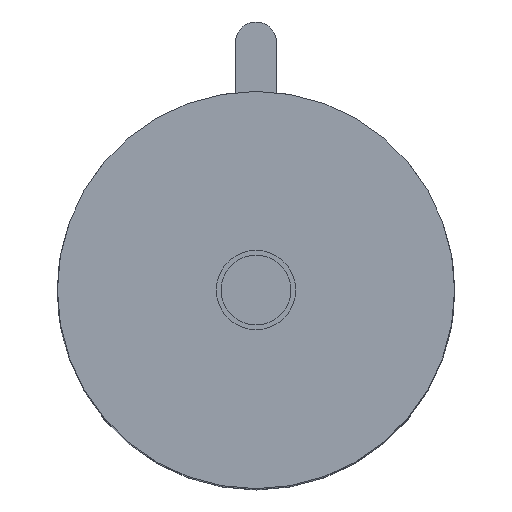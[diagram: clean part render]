
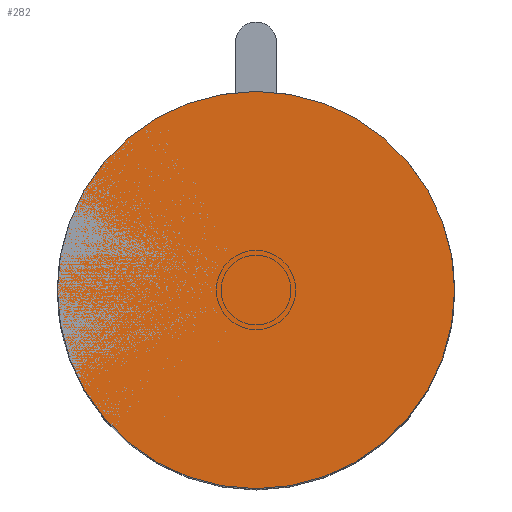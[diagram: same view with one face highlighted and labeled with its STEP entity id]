
A CAD part, top view. The second image highlights one B-rep face of the part: STEP entity #282.
In plain terms, the highlighted planar face has unit normal (0, 0, 1).
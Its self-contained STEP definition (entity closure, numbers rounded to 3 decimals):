
#35 = PLANE ( 'NONE',  #3122 ) ;
#246 = DIRECTION ( 'NONE',  ( 1., 0., 0. ) ) ;
#261 = DIRECTION ( 'NONE',  ( 0., 0., -1. ) ) ;
#273 = CARTESIAN_POINT ( 'NONE',  ( 0., 0., 76. ) ) ;
#282 = ADVANCED_FACE ( 'NONE', ( #3445 ), #35, .T. ) ;
#403 = CARTESIAN_POINT ( 'NONE',  ( -40., 0., 76. ) ) ;
#458 = AXIS2_PLACEMENT_3D ( 'NONE', #1508, #3284, #1791 ) ;
#580 = CIRCLE ( 'NONE', #458, 40. ) ;
#683 = ORIENTED_EDGE ( 'NONE', *, *, #2930, .F. ) ;
#1508 = CARTESIAN_POINT ( 'NONE',  ( 0., 0., 76. ) ) ;
#1791 = DIRECTION ( 'NONE',  ( 1., 0., 0. ) ) ;
#2015 = VERTEX_POINT ( 'NONE', #3186 ) ;
#2570 = DIRECTION ( 'NONE',  ( 0., 0., 1. ) ) ;
#2588 = AXIS2_PLACEMENT_3D ( 'NONE', #273, #261, #246 ) ;
#2675 = DIRECTION ( 'NONE',  ( 1., 0., 0. ) ) ;
#2684 = CARTESIAN_POINT ( 'NONE',  ( 0., 0., 76. ) ) ;
#2925 = VERTEX_POINT ( 'NONE', #403 ) ;
#2930 = EDGE_CURVE ( 'NONE', #2925, #2015, #3455, .T. ) ;
#2963 = ORIENTED_EDGE ( 'NONE', *, *, #3481, .F. ) ;
#3096 = EDGE_LOOP ( 'NONE', ( #2963, #683 ) ) ;
#3122 = AXIS2_PLACEMENT_3D ( 'NONE', #2684, #2570, #2675 ) ;
#3186 = CARTESIAN_POINT ( 'NONE',  ( 40., 0., 76. ) ) ;
#3284 = DIRECTION ( 'NONE',  ( 0., 0., -1. ) ) ;
#3445 = FACE_OUTER_BOUND ( 'NONE', #3096, .T. ) ;
#3455 = CIRCLE ( 'NONE', #2588, 40. ) ;
#3481 = EDGE_CURVE ( 'NONE', #2015, #2925, #580, .T. ) ;
